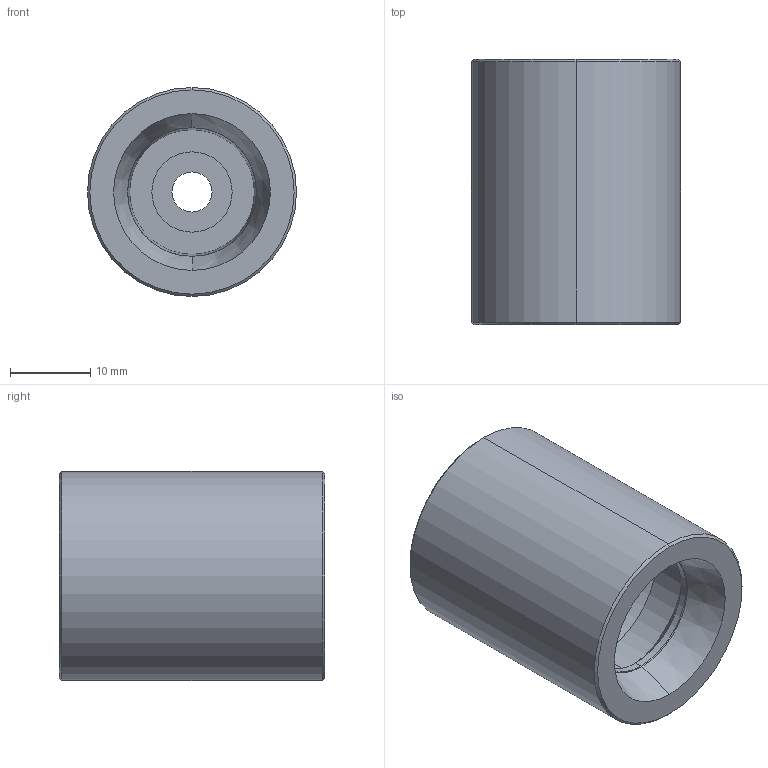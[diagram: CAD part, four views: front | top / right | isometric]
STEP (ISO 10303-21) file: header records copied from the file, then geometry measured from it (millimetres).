
FILE_DESCRIPTION (( 'STEP AP214' ), '1' );
FILE_NAME ('GMP20B.STEP', '2019-11-12T09:12:36', ( '微软用户' ), ( '微软中国' ), 'SwSTEP 2.0', 'SolidWorks 2016', '' );
FILE_SCHEMA (( 'AUTOMOTIVE_DESIGN' ));
Length unit declared in the file: millimetre
Products named in the file (1): GMP20B
Bounding box: 26 x 33 x 26 mm (x, y, z)
Volume: 11496.5 mm3; surface area: 5200.5 mm2
Topology: 1 solids, 1 shells, 30 faces, 64 edges, 38 vertices
Faces by surface type: cylinder 12, cone 12, plane 4, bspline 2
Entity records: 896 total; most frequent: CARTESIAN_POINT 169, DIRECTION 158, ORIENTED_EDGE 128, AXIS2_PLACEMENT_3D 67, EDGE_CURVE 64, VERTEX_POINT 38, CIRCLE 38, EDGE_LOOP 34
